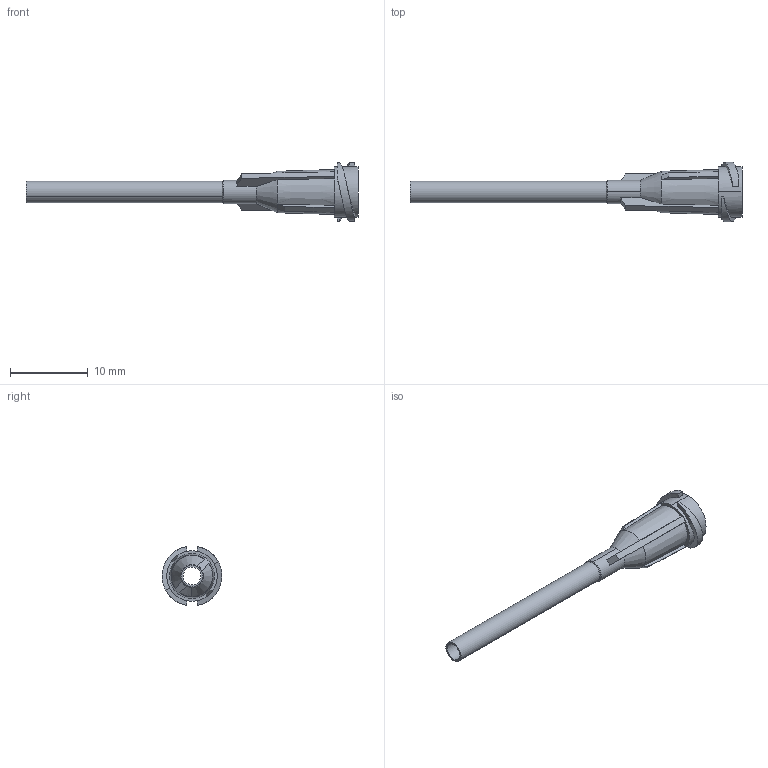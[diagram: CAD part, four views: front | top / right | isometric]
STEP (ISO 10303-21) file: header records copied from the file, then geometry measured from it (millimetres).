
FILE_DESCRIPTION (( 'STEP AP214' ), '1' );
FILE_NAME ('8001131_CUS.STEP', '2022-05-21T05:37:50', ( '' ), ( '' ), 'SwSTEP 2.0', 'SolidWorks 2020', '' );
FILE_SCHEMA (( 'AUTOMOTIVE_DESIGN' ));
Length unit declared in the file: millimetre
Products named in the file (1): 8001131_CUS
Bounding box: 42.77 x 7.7 x 7.59 mm (x, y, z)
Surface area: 986 mm2 (no closed solid volume)
Topology: 0 solids, 3 shells, 59 faces, 166 edges, 106 vertices
Faces by surface type: plane 33, cone 12, cylinder 8, bspline 6
Entity records: 2806 total; most frequent: CARTESIAN_POINT 694, ORIENTED_EDGE 302, DIRECTION 292, EDGE_CURVE 166, AXIS2_PLACEMENT_3D 110, VERTEX_POINT 106, LINE 72, VECTOR 72
